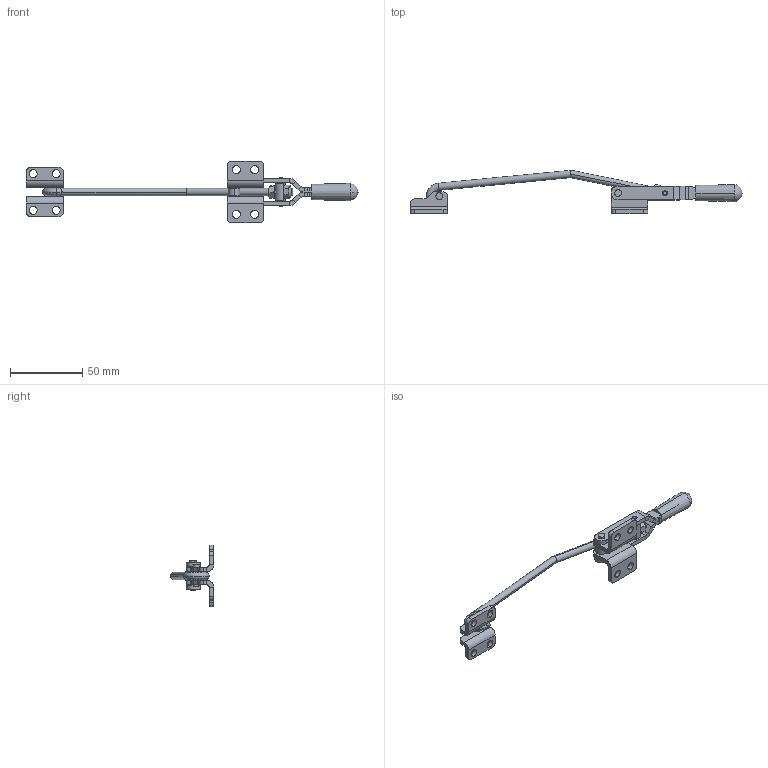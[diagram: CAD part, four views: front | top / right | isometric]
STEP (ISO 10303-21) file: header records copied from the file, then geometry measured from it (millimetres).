
FILE_DESCRIPTION (( 'STEP AP203' ), '1' );
FILE_NAME ('KF-033 L.STEP', '2011-07-20T12:46:05', ( 'Usuario' ), ( '' ), 'SwSTEP 2.0', 'SolidWorks 2011', '' );
FILE_SCHEMA (( 'CONFIG_CONTROL_DESIGN' ));
Length unit declared in the file: millimetre
Products named in the file (15): KF-033 L; 06.50012; 05.20036; 15.10066_Esquerda; 15.10066_Direita; 07.60004; 06.50011; 05.20007; 11.50005; 11.50013; 16.20080; 03.20054; 01.10107; 02.12073_Esquerda; 02.12073_Direita
Assembly tree (15 placements, depth 2):
  KF-033 L
    01.10107  x2
    02.12073_Esquerda
    02.12073_Direita
    07.60004
    11.50013
    06.50012
    11.50005
    15.10066_Direita
    16.20080
    06.50011
    05.20007
    15.10066_Esquerda
    03.20054
    05.20036
Bounding box: 230.29 x 29.99 x 42.9 mm (x, y, z)
Volume: 20660.1 mm3; surface area: 17474.5 mm2
Topology: 15 solids, 15 shells, 282 faces, 641 edges, 393 vertices
Faces by surface type: plane 125, cylinder 105, cone 46, sphere 4, torus 2
Entity records: 8949 total; most frequent: CARTESIAN_POINT 1484, DIRECTION 1308, ORIENTED_EDGE 1146, EDGE_CURVE 573, AXIS2_PLACEMENT_3D 517, VERTEX_POINT 353, EDGE_LOOP 294, VECTOR 274
